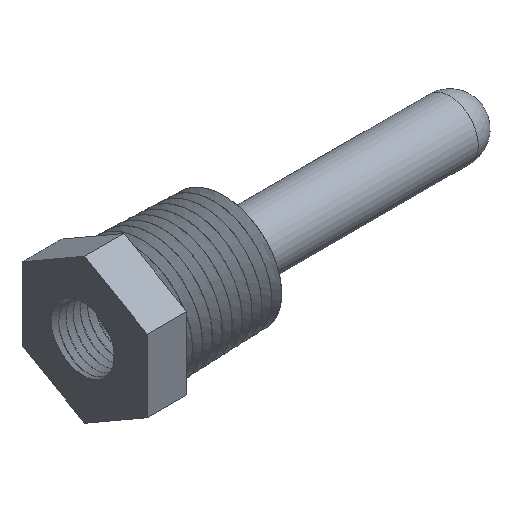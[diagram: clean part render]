
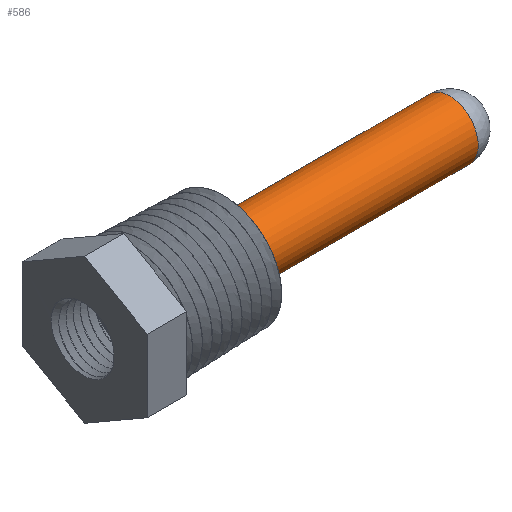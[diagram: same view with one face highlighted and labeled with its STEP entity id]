
A CAD part, isometric view. The second image highlights one B-rep face of the part: STEP entity #586.
In plain terms, the highlighted cylindrical face has radius 5.08 mm (diameter 10.16 mm), a full revolution.
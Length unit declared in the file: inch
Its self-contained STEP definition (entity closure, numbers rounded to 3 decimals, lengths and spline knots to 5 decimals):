
#18=CYLINDRICAL_SURFACE('',#651,0.2);
#69=FACE_OUTER_BOUND('',#104,.T.);
#104=EDGE_LOOP('',(#530,#531,#532,#533,#534));
#109=CIRCLE('',#624,0.2);
#120=CIRCLE('',#652,0.2);
#121=CIRCLE('',#653,0.2);
#190=LINE('',#6698,#222);
#222=VECTOR('',#773,0.2);
#249=VERTEX_POINT('',#3376);
#281=VERTEX_POINT('',#6695);
#282=VERTEX_POINT('',#6696);
#318=EDGE_CURVE('',#249,#249,#109,.T.);
#366=EDGE_CURVE('',#281,#282,#120,.T.);
#367=EDGE_CURVE('',#281,#249,#190,.T.);
#368=EDGE_CURVE('',#282,#281,#121,.T.);
#530=ORIENTED_EDGE('',*,*,#366,.F.);
#531=ORIENTED_EDGE('',*,*,#367,.T.);
#532=ORIENTED_EDGE('',*,*,#318,.T.);
#533=ORIENTED_EDGE('',*,*,#367,.F.);
#534=ORIENTED_EDGE('',*,*,#368,.F.);
#586=ADVANCED_FACE('',(#69),#18,.T.);
#624=AXIS2_PLACEMENT_3D('',#3377,#695,#696);
#651=AXIS2_PLACEMENT_3D('',#6694,#769,#770);
#652=AXIS2_PLACEMENT_3D('',#6697,#771,#772);
#653=AXIS2_PLACEMENT_3D('',#6699,#774,#775);
#695=DIRECTION('center_axis',(1.,0.,0.));
#696=DIRECTION('ref_axis',(0.,-0.5,0.866));
#769=DIRECTION('center_axis',(1.,0.,0.));
#770=DIRECTION('ref_axis',(0.,-0.5,0.866));
#771=DIRECTION('center_axis',(1.,0.,0.));
#772=DIRECTION('ref_axis',(0.,0.5,-0.866));
#773=DIRECTION('',(-1.,0.,0.));
#774=DIRECTION('center_axis',(1.,0.,0.));
#775=DIRECTION('ref_axis',(0.,0.5,-0.866));
#3376=CARTESIAN_POINT('',(3.17375,2.92729,1.29902));
#3377=CARTESIAN_POINT('Origin',(3.17375,2.82729,1.47223));
#6694=CARTESIAN_POINT('Origin',(3.94875,2.82729,1.47223));
#6695=CARTESIAN_POINT('',(4.72375,2.92729,1.29902));
#6696=CARTESIAN_POINT('',(4.72375,2.62729,1.47223));
#6697=CARTESIAN_POINT('Origin',(4.72375,2.82729,1.47223));
#6698=CARTESIAN_POINT('',(3.94875,2.92729,1.29902));
#6699=CARTESIAN_POINT('Origin',(4.72375,2.82729,1.47223));
